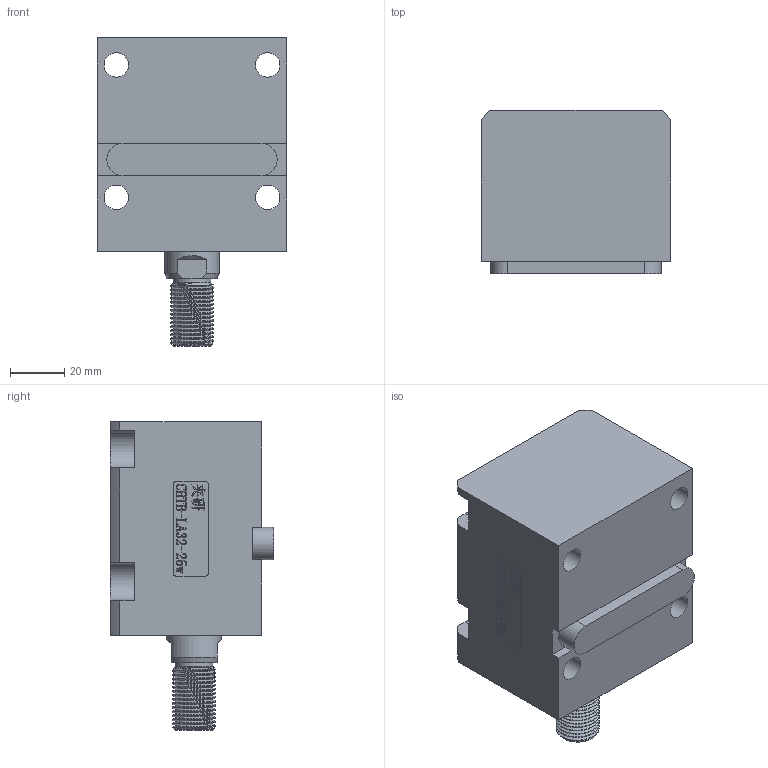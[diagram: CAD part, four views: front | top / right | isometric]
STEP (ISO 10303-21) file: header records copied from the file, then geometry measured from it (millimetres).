
FILE_DESCRIPTION(/* description */ (''),/* implementation_level */ '2;1');
FILE_NAME(/* name */ 'CHTB-LA32-25w.stp',/* time_stamp */ '2022-04-29T16:04:03+08:00',/* author */ (''),/* organization */ (''),/* preprocessor_version */ 'ST-DEVELOPER v16.7',/* originating_system */ 'SIEMENS PLM Software NX 12.0',/* authorisation */ '');
FILE_SCHEMA (('AUTOMOTIVE_DESIGN { 1 0 10303 214 3 1 1 1 }'));
Length unit declared in the file: millimetre
Products named in the file (1): CHTB-LA32-25w
Bounding box: 70 x 60.5 x 114 mm (x, y, z)
Volume: 282846.6 mm3; surface area: 61012.4 mm2
Topology: 3 solids, 3 shells, 447 faces, 1302 edges, 896 vertices
Faces by surface type: plane 288, extrusion 81, cylinder 40, cone 14, bspline 12, torus 12
Full cylindrical faces by diameter (mm): 3 x2, 4 x2, 9 x4, 10.7 x2, 14 x1, 20 x2, 24 x1, 24.5 x1, 26 x1, 32 x4, 40 x1
Entity records: 23533 total; most frequent: CARTESIAN_POINT 10302, ORIENTED_EDGE 2494, DIRECTION 1805, EDGE_CURVE 1247, VECTOR 905, VERTEX_POINT 886, LINE 824, EDGE_LOOP 535
